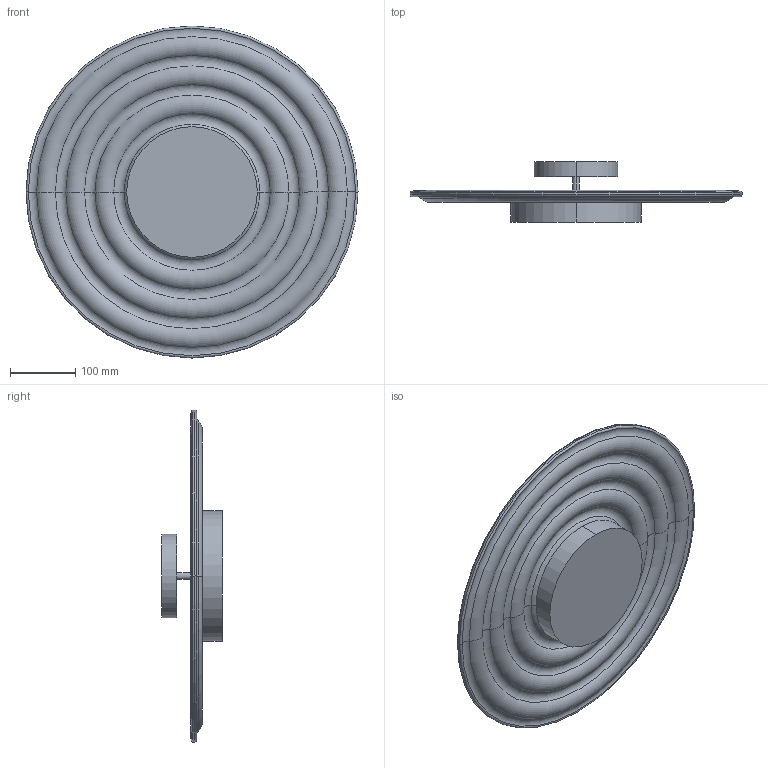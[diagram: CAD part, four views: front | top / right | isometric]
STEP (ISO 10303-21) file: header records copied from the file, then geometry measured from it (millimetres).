
FILE_DESCRIPTION (( 'STEP AP214' ), '1' );
FILE_NAME ('A1093_RANG.STEP', '2026-06-05T07:13:12', ( '' ), ( '' ), 'SwSTEP 2.0', 'SolidWorks 2023', '' );
FILE_SCHEMA (( 'AUTOMOTIVE_DESIGN' ));
Length unit declared in the file: inch
Products named in the file (1): A1093_RANG
Bounding box: 508.32 x 92.56 x 508.32 mm (x, y, z)
Volume: 3057932.2 mm3; surface area: 582179 mm2
Topology: 1 solids, 1 shells, 66 faces, 134 edges, 72 vertices
Faces by surface type: torus 48, cylinder 10, sphere 4, plane 4
Entity records: 1773 total; most frequent: DIRECTION 392, CARTESIAN_POINT 273, ORIENTED_EDGE 268, AXIS2_PLACEMENT_3D 191, EDGE_CURVE 134, CIRCLE 124, VERTEX_POINT 72, EDGE_LOOP 68
